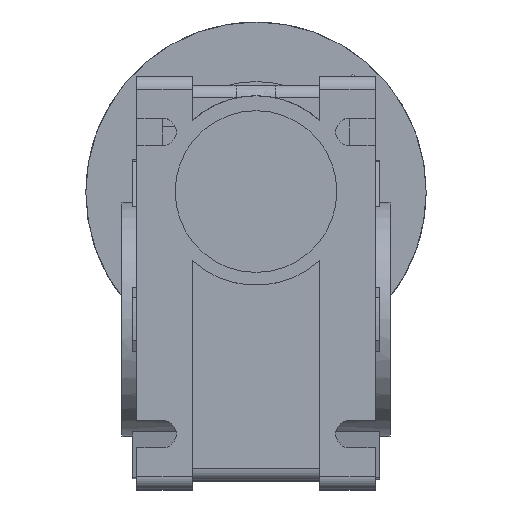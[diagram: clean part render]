
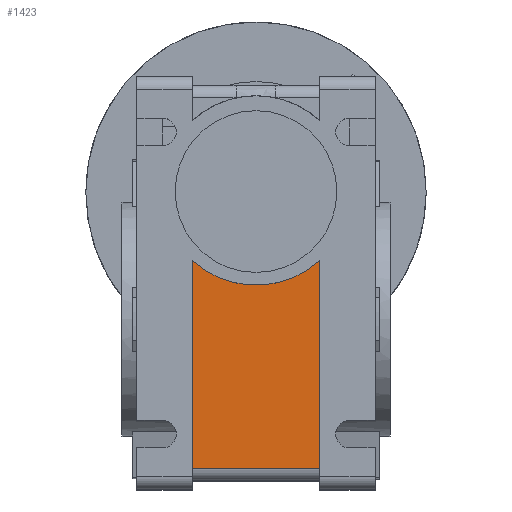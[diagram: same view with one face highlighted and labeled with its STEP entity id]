
A CAD part, top view. The second image highlights one B-rep face of the part: STEP entity #1423.
In plain terms, the highlighted planar face has unit normal (0, 0, 1).
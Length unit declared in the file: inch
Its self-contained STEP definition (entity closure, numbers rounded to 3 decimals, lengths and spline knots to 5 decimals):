
#1220 = ORIENTED_EDGE ( 'NONE', *, *, #14930, .T. ) ;
#1416 = VERTEX_POINT ( 'NONE', #4032 ) ;
#1420 = VERTEX_POINT ( 'NONE', #4026 ) ;
#1422 = EDGE_CURVE ( 'NONE', #1416, #1420, #4025, .T. ) ;
#1423 = ADVANCED_FACE ( 'NONE', ( #4021 ), #4020, .F. ) ;
#1424 = EDGE_LOOP ( 'NONE', ( #1220, #14932, #14933, #14936 ) ) ;
#4016 = DIRECTION ( 'NONE',  ( 0., -1., 0. ) ) ;
#4017 = DIRECTION ( 'NONE',  ( 0., 0., -1. ) ) ;
#4018 = CARTESIAN_POINT ( 'NONE',  ( 0., 0.00984, 8.78542 ) ) ;
#4019 = AXIS2_PLACEMENT_3D ( 'NONE', #4018, #4017, #4016 ) ;
#4020 = PLANE ( 'NONE',  #4019 ) ;
#4021 = FACE_OUTER_BOUND ( 'NONE', #1424, .T. ) ;
#4022 = DIRECTION ( 'NONE',  ( 1., 0., 0. ) ) ;
#4023 = VECTOR ( 'NONE', #4022, 39.37008 ) ;
#4024 = CARTESIAN_POINT ( 'NONE',  ( 0., -2.55906, 8.78542 ) ) ;
#4025 = LINE ( 'NONE', #4024, #4023 ) ;
#4026 = CARTESIAN_POINT ( 'NONE',  ( 0.59055, -2.55906, 8.78542 ) ) ;
#4032 = CARTESIAN_POINT ( 'NONE',  ( -0.59055, -2.55906, 8.78542 ) ) ;
#8973 = DIRECTION ( 'NONE',  ( 1., 0., 0. ) ) ;
#8974 = DIRECTION ( 'NONE',  ( 0., 0., -1. ) ) ;
#8975 = CARTESIAN_POINT ( 'NONE',  ( 0., 0.00984, 8.78542 ) ) ;
#8976 = AXIS2_PLACEMENT_3D ( 'NONE', #8975, #8974, #8973 ) ;
#8977 = CIRCLE ( 'NONE', #8976, 0.87598 ) ;
#8979 = CARTESIAN_POINT ( 'NONE',  ( 0.59055, -0.63715, 8.78542 ) ) ;
#8980 = DIRECTION ( 'NONE',  ( 0., 1., 0. ) ) ;
#8981 = VECTOR ( 'NONE', #8980, 39.37008 ) ;
#8982 = CARTESIAN_POINT ( 'NONE',  ( 0.59055, -2.67717, 8.78542 ) ) ;
#8983 = LINE ( 'NONE', #8982, #8981 ) ;
#8984 = CARTESIAN_POINT ( 'NONE',  ( -0.59055, -0.63715, 8.78542 ) ) ;
#8985 = DIRECTION ( 'NONE',  ( 0., -1., 0. ) ) ;
#8986 = VECTOR ( 'NONE', #8985, 39.37008 ) ;
#8987 = CARTESIAN_POINT ( 'NONE',  ( -0.59055, -2.67717, 8.78542 ) ) ;
#8988 = LINE ( 'NONE', #8987, #8986 ) ;
#14930 = EDGE_CURVE ( 'NONE', #14931, #1416, #8988, .T. ) ;
#14931 = VERTEX_POINT ( 'NONE', #8984 ) ;
#14932 = ORIENTED_EDGE ( 'NONE', *, *, #1422, .T. ) ;
#14933 = ORIENTED_EDGE ( 'NONE', *, *, #14934, .T. ) ;
#14934 = EDGE_CURVE ( 'NONE', #1420, #14935, #8983, .T. ) ;
#14935 = VERTEX_POINT ( 'NONE', #8979 ) ;
#14936 = ORIENTED_EDGE ( 'NONE', *, *, #14937, .T. ) ;
#14937 = EDGE_CURVE ( 'NONE', #14935, #14931, #8977, .T. ) ;
